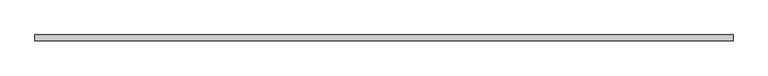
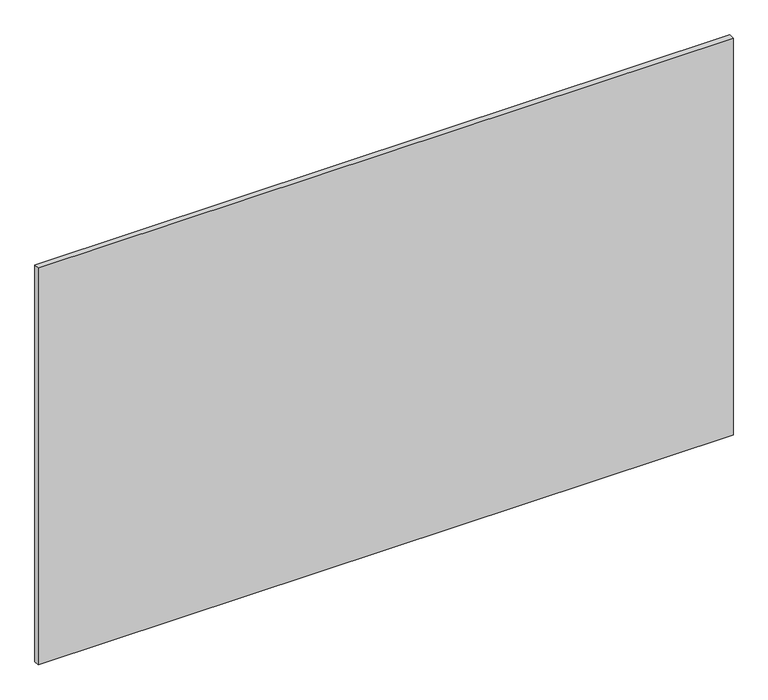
"""IFC4 building model written with IfcOpenShell, lengths in millimetres: plate geometry, Vitré."""

from ifc_helpers import new_model, si_unit, origin, origin_with_axes, place, context, project, spatial, polyline, outline, extrude, source, transform, mapped, element, save


def plate_ef0d3782(model_context):
    return source(origin(), model_context, "Body", "SweptSolid", [
        extrude(outline(polyline([(-2450.0, -20.0), (-2450.0, 20.0), (2450.0, 20.0), (2450.0, -20.0), (-2450.0, -20.0)])), origin_with_axes(), (0.0, 0.0, 1.0), 2960.0),
    ])


if __name__ == "__main__":
    model = new_model("IFC4")
    model_context = context("Model", 3, world=origin())
    ifc_project = project(units=[si_unit("LENGTHUNIT", "METRE", prefix="MILLI")], contexts=[model_context])
    site = spatial("IfcSite", under=ifc_project)
    building = spatial("IfcBuilding", under=site)
    placement = place(None, origin())
    plate_shape = plate_ef0d3782(model_context)
    element("IfcPlate", 1, ObjectType="Vitré", at=placement, inside=building, context=model_context, shape_type="MappedRepresentation", body=[
        mapped(plate_shape, transform((0.0, 0.0, 0.0), x_axis=(1.0, 0.0, 0.0), y_axis=(0.0, 1.0, 0.0), z_axis=(0.0, 0.0, 1.0))),
    ])
    save(model, "model.ifc")
